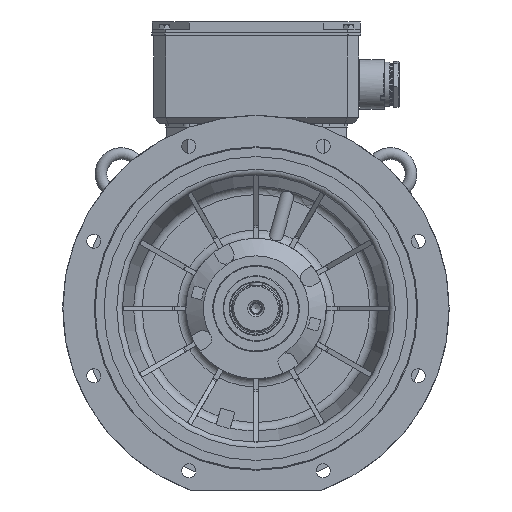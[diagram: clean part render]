
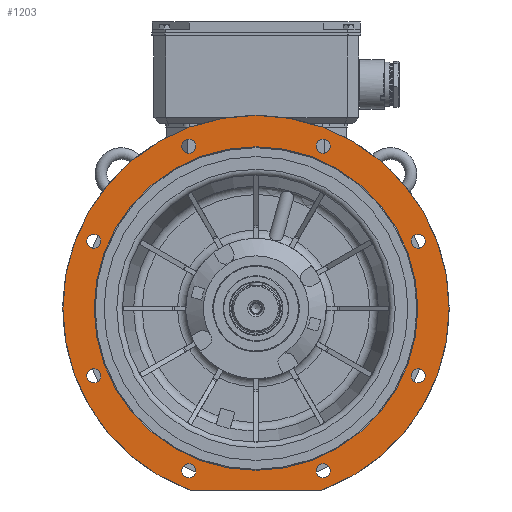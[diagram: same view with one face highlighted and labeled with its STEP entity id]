
A CAD part, front view. The second image highlights one B-rep face of the part: STEP entity #1203.
In plain terms, the highlighted planar face has unit normal (0, -1, 0).
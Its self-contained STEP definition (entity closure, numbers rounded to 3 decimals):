
#1203 = ADVANCED_FACE( '', ( #3549, #3550, #3551, #3552, #3553, #3554, #3555, #3556, #3557, #3558 ), #3559, .F. );
#3549 = FACE_BOUND( '', #10276, .T. );
#3550 = FACE_BOUND( '', #10277, .T. );
#3551 = FACE_BOUND( '', #10278, .T. );
#3552 = FACE_BOUND( '', #10279, .T. );
#3553 = FACE_BOUND( '', #10280, .T. );
#3554 = FACE_BOUND( '', #10281, .T. );
#3555 = FACE_BOUND( '', #10282, .T. );
#3556 = FACE_BOUND( '', #10283, .T. );
#3557 = FACE_BOUND( '', #10284, .T. );
#3558 = FACE_OUTER_BOUND( '', #10285, .T. );
#3559 = PLANE( '', #10286 );
#10276 = EDGE_LOOP( '', ( #18895 ) );
#10277 = EDGE_LOOP( '', ( #18896 ) );
#10278 = EDGE_LOOP( '', ( #18897 ) );
#10279 = EDGE_LOOP( '', ( #18898 ) );
#10280 = EDGE_LOOP( '', ( #18899 ) );
#10281 = EDGE_LOOP( '', ( #18900 ) );
#10282 = EDGE_LOOP( '', ( #18901 ) );
#10283 = EDGE_LOOP( '', ( #18902 ) );
#10284 = EDGE_LOOP( '', ( #18903 ) );
#10285 = EDGE_LOOP( '', ( #18904, #18905, #18906, #18907 ) );
#10286 = AXIS2_PLACEMENT_3D( '', #18908, #18909, #18910 );
#18895 = ORIENTED_EDGE( '', *, *, #23693, .F. );
#18896 = ORIENTED_EDGE( '', *, *, #23694, .F. );
#18897 = ORIENTED_EDGE( '', *, *, #23695, .F. );
#18898 = ORIENTED_EDGE( '', *, *, #23696, .F. );
#18899 = ORIENTED_EDGE( '', *, *, #23697, .F. );
#18900 = ORIENTED_EDGE( '', *, *, #23698, .F. );
#18901 = ORIENTED_EDGE( '', *, *, #23699, .F. );
#18902 = ORIENTED_EDGE( '', *, *, #23700, .F. );
#18903 = ORIENTED_EDGE( '', *, *, #23692, .F. );
#18904 = ORIENTED_EDGE( '', *, *, #21553, .T. );
#18905 = ORIENTED_EDGE( '', *, *, #23701, .F. );
#18906 = ORIENTED_EDGE( '', *, *, #21550, .T. );
#18907 = ORIENTED_EDGE( '', *, *, #21556, .F. );
#18908 = CARTESIAN_POINT( '', ( 0., -104.997, 276.4 ) );
#18909 = DIRECTION( '', ( 0., 1., 0. ) );
#18910 = DIRECTION( '', ( 0., 0., 1. ) );
#21550 = EDGE_CURVE( '', #25737, #25738, #25739, .F. );
#21553 = EDGE_CURVE( '', #25742, #25743, #25744, .F. );
#21556 = EDGE_CURVE( '', #25742, #25738, #25747, .T. );
#23692 = EDGE_CURVE( '', #29303, #29303, #29304, .T. );
#23693 = EDGE_CURVE( '', #29305, #29305, #29306, .T. );
#23694 = EDGE_CURVE( '', #29307, #29307, #29308, .T. );
#23695 = EDGE_CURVE( '', #29309, #29309, #29310, .T. );
#23696 = EDGE_CURVE( '', #29311, #29311, #29312, .T. );
#23697 = EDGE_CURVE( '', #29313, #29313, #29314, .T. );
#23698 = EDGE_CURVE( '', #29315, #29315, #29316, .T. );
#23699 = EDGE_CURVE( '', #29317, #29317, #29318, .T. );
#23700 = EDGE_CURVE( '', #29319, #29319, #29320, .T. );
#23701 = EDGE_CURVE( '', #25737, #25743, #29321, .T. );
#25737 = VERTEX_POINT( '', #33067 );
#25738 = VERTEX_POINT( '', #33068 );
#25739 = CIRCLE( '', #33069, 3. );
#25742 = VERTEX_POINT( '', #33074 );
#25743 = VERTEX_POINT( '', #33075 );
#25744 = CIRCLE( '', #33076, 3. );
#25747 = CIRCLE( '', #33081, 330. );
#29303 = VERTEX_POINT( '', #41397 );
#29304 = CIRCLE( '', #41398, 276.4 );
#29305 = VERTEX_POINT( '', #41399 );
#29306 = CIRCLE( '', #41400, 12. );
#29307 = VERTEX_POINT( '', #41401 );
#29308 = CIRCLE( '', #41402, 12. );
#29309 = VERTEX_POINT( '', #41403 );
#29310 = CIRCLE( '', #41404, 12. );
#29311 = VERTEX_POINT( '', #41405 );
#29312 = CIRCLE( '', #41406, 12. );
#29313 = VERTEX_POINT( '', #41407 );
#29314 = CIRCLE( '', #41408, 12. );
#29315 = VERTEX_POINT( '', #41409 );
#29316 = CIRCLE( '', #41410, 12. );
#29317 = VERTEX_POINT( '', #41411 );
#29318 = CIRCLE( '', #41412, 12. );
#29319 = VERTEX_POINT( '', #41413 );
#29320 = CIRCLE( '', #41414, 12. );
#29321 = LINE( '', #41415, #41416 );
#33067 = CARTESIAN_POINT( '', ( 112.606, -104.997, -310. ) );
#33068 = CARTESIAN_POINT( '', ( 113.639, -104.997, -309.817 ) );
#33069 = AXIS2_PLACEMENT_3D( '', #45456, #45457, #45458 );
#33074 = CARTESIAN_POINT( '', ( -113.639, -104.997, -309.817 ) );
#33075 = CARTESIAN_POINT( '', ( -112.606, -104.997, -310. ) );
#33076 = AXIS2_PLACEMENT_3D( '', #45461, #45462, #45463 );
#33081 = AXIS2_PLACEMENT_3D( '', #45466, #45467, #45468 );
#41397 = CARTESIAN_POINT( '', ( 0., -104.997, -276.4 ) );
#41398 = AXIS2_PLACEMENT_3D( '', #48510, #48511, #48512 );
#41399 = CARTESIAN_POINT( '', ( -265.164, -104.997, 114.805 ) );
#41400 = AXIS2_PLACEMENT_3D( '', #48513, #48514, #48515 );
#41401 = CARTESIAN_POINT( '', ( -265.164, -104.997, -114.805 ) );
#41402 = AXIS2_PLACEMENT_3D( '', #48516, #48517, #48518 );
#41403 = CARTESIAN_POINT( '', ( -102.805, -104.997, -277.164 ) );
#41404 = AXIS2_PLACEMENT_3D( '', #48519, #48520, #48521 );
#41405 = CARTESIAN_POINT( '', ( 126.805, -104.997, -277.164 ) );
#41406 = AXIS2_PLACEMENT_3D( '', #48522, #48523, #48524 );
#41407 = CARTESIAN_POINT( '', ( 289.164, -104.997, -114.805 ) );
#41408 = AXIS2_PLACEMENT_3D( '', #48525, #48526, #48527 );
#41409 = CARTESIAN_POINT( '', ( 289.164, -104.997, 114.805 ) );
#41410 = AXIS2_PLACEMENT_3D( '', #48528, #48529, #48530 );
#41411 = CARTESIAN_POINT( '', ( 126.805, -104.997, 277.164 ) );
#41412 = AXIS2_PLACEMENT_3D( '', #48531, #48532, #48533 );
#41413 = CARTESIAN_POINT( '', ( -102.805, -104.997, 277.164 ) );
#41414 = AXIS2_PLACEMENT_3D( '', #48534, #48535, #48536 );
#41415 = CARTESIAN_POINT( '', ( -113.137, -104.997, -310. ) );
#41416 = VECTOR( '', #48537, 1000. );
#45456 = CARTESIAN_POINT( '', ( 112.606, -104.997, -307. ) );
#45457 = DIRECTION( '', ( 0., 1., 0. ) );
#45458 = DIRECTION( '', ( 0., 0., 1. ) );
#45461 = CARTESIAN_POINT( '', ( -112.606, -104.997, -307. ) );
#45462 = DIRECTION( '', ( 0., 1., 0. ) );
#45463 = DIRECTION( '', ( 0., 0., 1. ) );
#45466 = CARTESIAN_POINT( '', ( 0., -104.997, 0. ) );
#45467 = DIRECTION( '', ( 0., 1., 0. ) );
#45468 = DIRECTION( '', ( 0., 0., 1. ) );
#48510 = CARTESIAN_POINT( '', ( 0., -104.997, 0. ) );
#48511 = DIRECTION( '', ( 0., -1., 0. ) );
#48512 = DIRECTION( '', ( 0., 0., -1. ) );
#48513 = CARTESIAN_POINT( '', ( -277.164, -104.997, 114.805 ) );
#48514 = DIRECTION( '', ( 0., -1., 0. ) );
#48515 = DIRECTION( '', ( 1., 0., 0. ) );
#48516 = CARTESIAN_POINT( '', ( -277.164, -104.997, -114.805 ) );
#48517 = DIRECTION( '', ( 0., -1., 0. ) );
#48518 = DIRECTION( '', ( 1., 0., 0. ) );
#48519 = CARTESIAN_POINT( '', ( -114.805, -104.997, -277.164 ) );
#48520 = DIRECTION( '', ( 0., -1., 0. ) );
#48521 = DIRECTION( '', ( 1., 0., 0. ) );
#48522 = CARTESIAN_POINT( '', ( 114.805, -104.997, -277.164 ) );
#48523 = DIRECTION( '', ( 0., -1., 0. ) );
#48524 = DIRECTION( '', ( 1., 0., 0. ) );
#48525 = CARTESIAN_POINT( '', ( 277.164, -104.997, -114.805 ) );
#48526 = DIRECTION( '', ( 0., -1., 0. ) );
#48527 = DIRECTION( '', ( 1., 0., 0. ) );
#48528 = CARTESIAN_POINT( '', ( 277.164, -104.997, 114.805 ) );
#48529 = DIRECTION( '', ( 0., -1., 0. ) );
#48530 = DIRECTION( '', ( 1., 0., 0. ) );
#48531 = CARTESIAN_POINT( '', ( 114.805, -104.997, 277.164 ) );
#48532 = DIRECTION( '', ( 0., -1., 0. ) );
#48533 = DIRECTION( '', ( 1., 0., 0. ) );
#48534 = CARTESIAN_POINT( '', ( -114.805, -104.997, 277.164 ) );
#48535 = DIRECTION( '', ( 0., -1., 0. ) );
#48536 = DIRECTION( '', ( 1., 0., 0. ) );
#48537 = DIRECTION( '', ( -1., 0., 0. ) );
